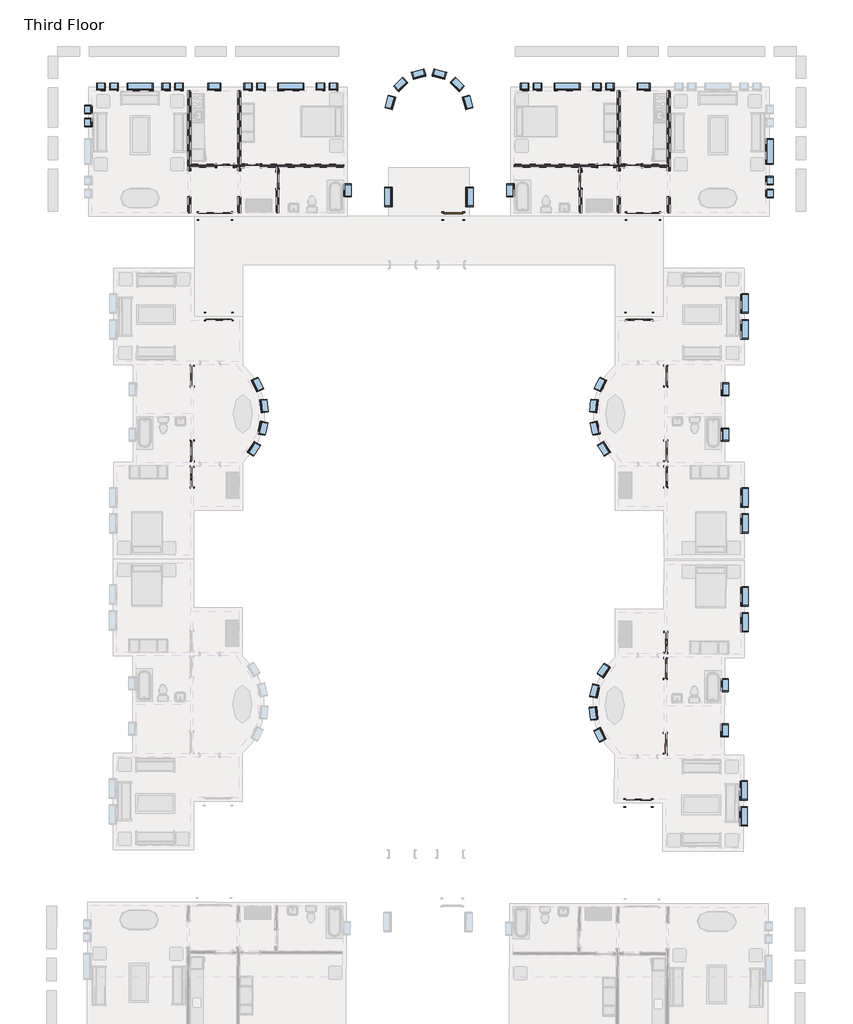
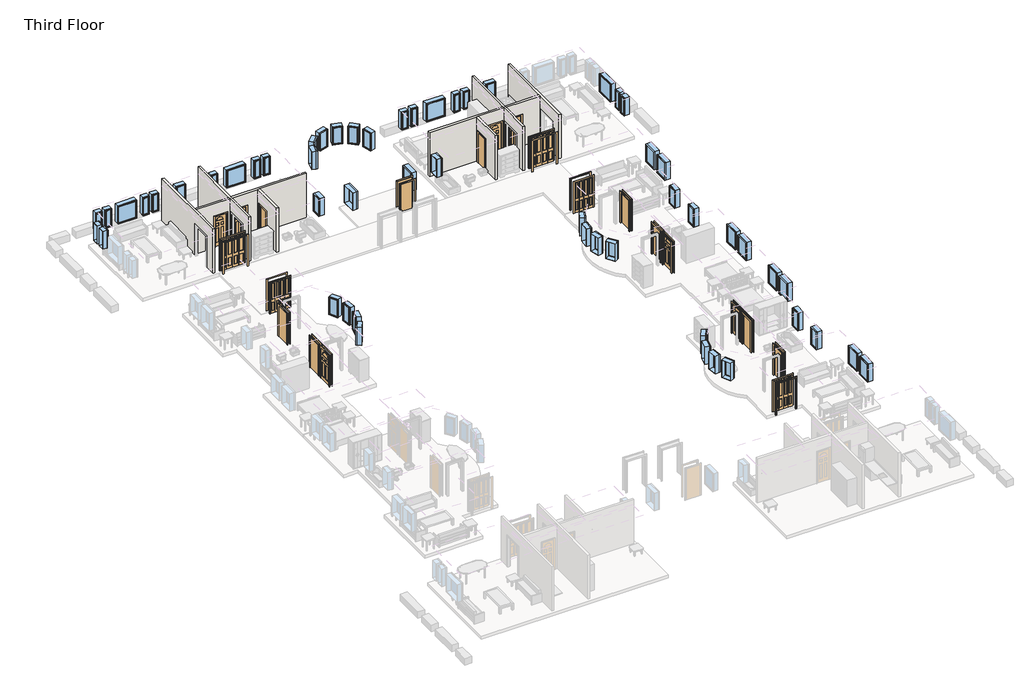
# One storey, part 2 of 5: 56 windows, 21 doors, 8 walls.
"""IFC4 building model written with IfcOpenShell, lengths in millimetres."""

from ifc_helpers import new_model, si_unit, frame, origin, place, context, project, spatial, polyline, outline, extrude, faceted_brep, transform, mapped, element, save
from components import m_bifold_4_panel_1220_x_2134mm_46e1cad3, m_bifold_4_panel_1220_x_2134mm_cde6dea2, m_bifold_4_panel_1525_x_2134mm_1ddae71f, m_bifold_4_panel_1525_x_2134mm_ac598c8b, m_single_decorative_2_0762_x_2134mm_0d0af7cb, m_single_decorative_2_0762_x_2134mm_2fe67c8e, m_single_decorative_2_0915_x_2134mm_cc9a65e4, m_single_decorative_2_0915_x_2134mm_0b11df3f, m_single_flush_0762_x_2134mm_0d89e411, m_single_flush_0762_x_2134mm_a28375c7, m_single_flush_0915_x_2134mm_1eac8bb1, m_single_flush_0915_x_2134mm_ab9b6334, m_single_flush_0915_x_2134mm_08e0827a, m_fixed_0406_x_1220mm_57fee329, m_fixed_0406_x_1220mm_85c28f40, m_fixed_0610_x_1220mm_2c28ef1d, m_fixed_0610_x_1220mm_1ea27827, m_fixed_0915_x_1220mm_bde29121, m_fixed_0915_x_1220mm_2a2509e7, m_fixed_1220_x_1220mm_e08ff7af, m_fixed_1220_x_1220mm_8f5f8ad3

model = new_model("IFC4")

# Units and contexts
model_context = context("Model", 3, world=origin())
ifc_project = project(units=[si_unit("LENGTHUNIT", "METRE", prefix="MILLI")], contexts=[model_context])

# Site, building, storey
site = spatial("IfcSite", under=ifc_project)
building = spatial("IfcBuilding", under=site)
storey = spatial("IfcBuildingStorey", under=building, Name="Third Floor", Elevation=6096.0)

# Doors
placement = place(None, origin())
m_bifold_4_panel_1220_x_2134mm_shape = m_bifold_4_panel_1220_x_2134mm_46e1cad3(model_context)
element("IfcDoor", 1, ObjectType="M_Bifold-4 Panel : 1220 x 2134mm", at=placement, inside=storey, context=model_context, shape_type="MappedRepresentation", body=[
    mapped(m_bifold_4_panel_1220_x_2134mm_shape, transform((-28863.3459343, -8240.6820888, 6096.0), x_axis=(-0.9999989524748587, 0.0014474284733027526, 0.0), y_axis=(-0.0014474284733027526, -0.9999989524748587, 0.0), z_axis=(0.0, 0.0, 1.0))),
])
element("IfcDoor", 2, ObjectType="M_Bifold-4 Panel : 1220 x 2134mm", at=placement, inside=storey, context=model_context, shape_type="MappedRepresentation", body=[
    mapped(m_bifold_4_panel_1220_x_2134mm_shape, transform((-9084.0085376, -31158.0124606, 6096.0), x_axis=(0.9999905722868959, -0.0043422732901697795, 0.0), y_axis=(0.0043422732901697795, 0.9999905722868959, 0.0), z_axis=(0.0, 0.0, 1.0))),
])
m_bifold_4_panel_1220_x_2134mm_2_shape = m_bifold_4_panel_1220_x_2134mm_cde6dea2(model_context)
element("IfcDoor", 3, ObjectType="M_Bifold-4 Panel : 1220 x 2134mm", at=placement, inside=storey, context=model_context, shape_type="MappedRepresentation", body=[
    mapped(m_bifold_4_panel_1220_x_2134mm_2_shape, transform((-9050.8373063, -8240.6820888, 6096.0), x_axis=(0.9999989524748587, 0.0014474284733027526, 0.0), y_axis=(-0.0014474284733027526, 0.9999989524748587, 0.0), z_axis=(0.0, 0.0, 1.0))),
])
m_bifold_4_panel_1525_x_2134mm_shape = m_bifold_4_panel_1525_x_2134mm_1ddae71f(model_context)
element("IfcDoor", 4, ObjectType="M_Bifold-4 Panel : 1525 x 2134mm", at=placement, inside=storey, context=model_context, shape_type="MappedRepresentation", body=[
    mapped(m_bifold_4_panel_1525_x_2134mm_shape, transform((-8876.0916203, -3514.8811614, 6096.0), x_axis=(1.0, 0.0, 0.0), y_axis=(0.0, 1.0, 0.0), z_axis=(0.0, 0.0, 1.0))),
])
m_bifold_4_panel_1525_x_2134mm_2_shape = m_bifold_4_panel_1525_x_2134mm_ac598c8b(model_context)
element("IfcDoor", 5, ObjectType="M_Bifold-4 Panel : 1525 x 2134mm", at=placement, inside=storey, context=model_context, shape_type="MappedRepresentation", body=[
    mapped(m_bifold_4_panel_1525_x_2134mm_2_shape, transform((-29038.0916203, -3514.8811614, 6096.0), x_axis=(-1.0, 0.0, 0.0), y_axis=(0.0, -1.0, 0.0), z_axis=(0.0, 0.0, 1.0))),
])
m_single_decorative_2_0762_x_2134mm_shape = m_single_decorative_2_0762_x_2134mm_0d0af7cb(model_context)
element("IfcDoor", 6, ObjectType="M_Single-Decorative 2 : 0762 x 2134mm", at=placement, inside=storey, context=model_context, shape_type="MappedRepresentation", body=[
    mapped(m_single_decorative_2_0762_x_2134mm_shape, transform((-9342.3416203, -1138.1311614, 6096.0), x_axis=(-1.0, 0.0, 0.0), y_axis=(0.0, -1.0, 0.0), z_axis=(0.0, 0.0, 1.0))),
])
element("IfcDoor", 7, ObjectType="M_Single-Decorative 2 : 0762 x 2134mm", at=placement, inside=storey, context=model_context, shape_type="MappedRepresentation", body=[
    mapped(m_single_decorative_2_0762_x_2134mm_shape, transform((-27285.0916203, -1138.1311614, 6096.0), x_axis=(-1.0, 0.0, 0.0), y_axis=(0.0, -1.0, 0.0), z_axis=(0.0, 0.0, 1.0))),
])
m_single_decorative_2_0762_x_2134mm_2_shape = m_single_decorative_2_0762_x_2134mm_2fe67c8e(model_context)
element("IfcDoor", 8, ObjectType="M_Single-Decorative 2 : 0762 x 2134mm", at=placement, inside=storey, context=model_context, shape_type="MappedRepresentation", body=[
    mapped(m_single_decorative_2_0762_x_2134mm_2_shape, transform((-10629.0916203, -1138.1311614, 6096.0), x_axis=(1.0, 0.0, 0.0), y_axis=(0.0, 1.0, 0.0), z_axis=(0.0, 0.0, 1.0))),
])
element("IfcDoor", 9, ObjectType="M_Single-Decorative 2 : 0762 x 2134mm", at=placement, inside=storey, context=model_context, shape_type="MappedRepresentation", body=[
    mapped(m_single_decorative_2_0762_x_2134mm_2_shape, transform((-28571.8416203, -1138.1311614, 6096.0), x_axis=(1.0, 0.0, 0.0), y_axis=(0.0, 1.0, 0.0), z_axis=(0.0, 0.0, 1.0))),
])
m_single_decorative_2_0915_x_2134mm_shape = m_single_decorative_2_0915_x_2134mm_cc9a65e4(model_context)
element("IfcDoor", 10, ObjectType="M_Single-Decorative 2 : 0915 x 2134mm", at=placement, inside=storey, context=model_context, shape_type="MappedRepresentation", body=[
    mapped(m_single_decorative_2_0915_x_2134mm_shape, transform((-30117.2933431, -15803.1250115, 6096.0), x_axis=(0.0014474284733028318, 0.9999989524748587, 0.0), y_axis=(-0.9999989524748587, 0.0014474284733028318, 0.0), z_axis=(0.0, 0.0, 1.0))),
])
element("IfcDoor", 11, ObjectType="M_Single-Decorative 2 : 0915 x 2134mm", at=placement, inside=storey, context=model_context, shape_type="MappedRepresentation", body=[
    mapped(m_single_decorative_2_0915_x_2134mm_shape, transform((-7808.1742155, -23599.2312198, 6096.0), x_axis=(-0.004342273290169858, -0.9999905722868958, 0.0), y_axis=(0.9999905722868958, -0.004342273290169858, 0.0), z_axis=(0.0, 0.0, 1.0))),
])
m_single_decorative_2_0915_x_2134mm_2_shape = m_single_decorative_2_0915_x_2134mm_0b11df3f(model_context)
element("IfcDoor", 12, ObjectType="M_Single-Decorative 2 : 0915 x 2134mm", at=placement, inside=storey, context=model_context, shape_type="MappedRepresentation", body=[
    mapped(m_single_decorative_2_0915_x_2134mm_2_shape, transform((-7796.8898976, -15803.1250115, 6096.0), x_axis=(-0.0014474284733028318, 0.9999989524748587, 0.0), y_axis=(-0.9999989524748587, -0.0014474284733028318, 0.0), z_axis=(0.0, 0.0, 1.0))),
])
m_single_flush_0762_x_2134mm_shape = m_single_flush_0762_x_2134mm_0d89e411(model_context)
element("IfcDoor", 13, ObjectType="M_Single-Flush : 0762 x 2134mm", at=placement, inside=storey, context=model_context, shape_type="MappedRepresentation", body=[
    mapped(m_single_flush_0762_x_2134mm_shape, transform((-11819.5916203, -1815.8811614, 6096.0), x_axis=(0.0, 1.0, 0.0), y_axis=(-1.0, 0.0, 0.0), z_axis=(0.0, 0.0, 1.0))),
])
m_single_flush_0762_x_2134mm_2_shape = m_single_flush_0762_x_2134mm_a28375c7(model_context)
element("IfcDoor", 14, ObjectType="M_Single-Flush : 0762 x 2134mm", at=placement, inside=storey, context=model_context, shape_type="MappedRepresentation", body=[
    mapped(m_single_flush_0762_x_2134mm_2_shape, transform((-26094.5916203, -1815.8811614, 6096.0), x_axis=(0.0, 1.0, 0.0), y_axis=(-1.0, 0.0, 0.0), z_axis=(0.0, 0.0, 1.0))),
])
m_single_flush_0915_x_2134mm_shape = m_single_flush_0915_x_2134mm_1eac8bb1(model_context)
element("IfcDoor", 15, ObjectType="M_Single-Flush : 0915 x 2134mm", at=placement, inside=storey, context=model_context, shape_type="MappedRepresentation", body=[
    mapped(m_single_flush_0915_x_2134mm_shape, transform((-17814.0916203, -3514.8811614, 6096.0), x_axis=(1.0, 0.0, 0.0), y_axis=(0.0, 1.0, 0.0), z_axis=(0.0, 0.0, 1.0))),
])
m_single_flush_0915_x_2134mm_2_shape = m_single_flush_0915_x_2134mm_ab9b6334(model_context)
element("IfcDoor", 16, ObjectType="M_Single-Flush : 0915 x 2134mm", at=placement, inside=storey, context=model_context, shape_type="MappedRepresentation", body=[
    mapped(m_single_flush_0915_x_2134mm_2_shape, transform((-7803.7915984, -11034.8800064, 6096.0), x_axis=(-0.0014474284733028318, 0.9999989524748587, 0.0), y_axis=(-0.9999989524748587, -0.0014474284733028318, 0.0), z_axis=(0.0, 0.0, 1.0))),
])
element("IfcDoor", 17, ObjectType="M_Single-Flush : 0915 x 2134mm", at=placement, inside=storey, context=model_context, shape_type="MappedRepresentation", body=[
    mapped(m_single_flush_0915_x_2134mm_2_shape, transform((-30115.5274803, -14583.1262895, 6096.0), x_axis=(-0.0014474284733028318, -0.9999989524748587, 0.0), y_axis=(0.9999989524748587, -0.0014474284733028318, 0.0), z_axis=(0.0, 0.0, 1.0))),
])
element("IfcDoor", 18, ObjectType="M_Single-Flush : 0915 x 2134mm", at=placement, inside=storey, context=model_context, shape_type="MappedRepresentation", body=[
    mapped(m_single_flush_0915_x_2134mm_2_shape, transform((-7813.4717889, -24819.219718, 6096.0), x_axis=(0.004342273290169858, 0.9999905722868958, 0.0), y_axis=(-0.9999905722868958, 0.004342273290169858, 0.0), z_axis=(0.0, 0.0, 1.0))),
])
m_single_flush_0915_x_2134mm_3_shape = m_single_flush_0915_x_2134mm_08e0827a(model_context)
element("IfcDoor", 19, ObjectType="M_Single-Flush : 0915 x 2134mm", at=placement, inside=storey, context=model_context, shape_type="MappedRepresentation", body=[
    mapped(m_single_flush_0915_x_2134mm_3_shape, transform((-7798.6557603, -14583.1262895, 6096.0), x_axis=(0.0014474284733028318, -0.9999989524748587, 0.0), y_axis=(0.9999989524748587, 0.0014474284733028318, 0.0), z_axis=(0.0, 0.0, 1.0))),
])
element("IfcDoor", 20, ObjectType="M_Single-Flush : 0915 x 2134mm", at=placement, inside=storey, context=model_context, shape_type="MappedRepresentation", body=[
    mapped(m_single_flush_0915_x_2134mm_3_shape, transform((-30110.3916422, -11034.8800064, 6096.0), x_axis=(0.0014474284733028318, 0.9999989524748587, 0.0), y_axis=(-0.9999989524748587, 0.0014474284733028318, 0.0), z_axis=(0.0, 0.0, 1.0))),
])
element("IfcDoor", 21, ObjectType="M_Single-Flush : 0915 x 2134mm", at=placement, inside=storey, context=model_context, shape_type="MappedRepresentation", body=[
    mapped(m_single_flush_0915_x_2134mm_3_shape, transform((-7828.8792601, -28367.4362661, 6096.0), x_axis=(-0.004342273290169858, -0.9999905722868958, 0.0), y_axis=(0.9999905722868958, -0.004342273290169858, 0.0), z_axis=(0.0, 0.0, 1.0))),
])

# Walls
element("IfcWall", 22, ObjectType="Interior - 135mm Partition (2-hr)", at=placement, inside=storey, context=model_context, shape_type="Brep", body=[
    faceted_brep([(-7733.0916203, 2406.1188386, 6096.0), (-7733.0916203, -1070.3811614, 6096.0), (-7733.0916203, -1205.8811614, 6096.0), (-7733.0916203, -1380.8811614, 6096.0), (-7733.0916203, -1380.8811614, 8230.0), (-7733.0916203, -2600.8811614, 8230.0), (-7733.0916203, -2600.8811614, 6096.0), (-7733.0916203, -3339.8811614, 6096.0), (-7733.0916203, -3339.8811614, 9144.0), (-7733.0916203, -1205.8811614, 9144.0), (-7733.0916203, -1070.3811614, 9144.0), (-7733.0916203, 2406.1188386, 9144.0), (-7597.5916203, -1380.8811614, 8230.0), (-7597.5916203, -1380.8811614, 6096.0), (-7597.5916203, 2406.1188386, 6096.0), (-7597.5916203, 2406.1188386, 9144.0), (-7597.5916203, -3339.8811614, 9144.0), (-7597.5916203, -3339.8811614, 6096.0), (-7597.5916203, -2600.8811614, 6096.0), (-7597.5916203, -2600.8811614, 8230.0)], [[[0, 1, 2, 3, 4, 5, 6, 7, 8, 9, 10, 11]], [[12, 13, 14, 15, 16, 17, 18, 19]], [[18, 17, 7, 6]], [[14, 13, 3, 2, 1, 0]], [[11, 10, 9, 8, 16, 15]], [[6, 5, 19, 18]], [[4, 3, 13, 12]], [[5, 4, 12, 19]], [[8, 7, 17, 16]], [[0, 11, 15, 14]]]),
])
element("IfcWall", 23, ObjectType="Interior - 135mm Partition (2-hr)", at=placement, inside=storey, context=model_context, shape_type="Brep", body=[
    faceted_brep([(-10086.8416203, -2600.8811614, 8230.0), (-10086.8416203, -2600.8811614, 6096.0), (-10086.8416203, -3339.8811614, 6096.0), (-10086.8416203, -3339.8811614, 9144.0), (-10086.8416203, -1205.8811614, 9144.0), (-10086.8416203, -1070.3811614, 9144.0), (-10086.8416203, 2406.1188386, 9144.0), (-10086.8416203, 2406.1188386, 6096.0), (-10086.8416203, -1070.3811614, 6096.0), (-10086.8416203, -1205.8811614, 6096.0), (-10086.8416203, -1380.8811614, 6096.0), (-10086.8416203, -1380.8811614, 8230.0), (-9951.3416203, -3339.8811614, 6096.0), (-9951.3416203, -2600.8811614, 6096.0), (-9951.3416203, -2600.8811614, 8230.0), (-9951.3416203, -1380.8811614, 8230.0), (-9951.3416203, -1380.8811614, 6096.0), (-9951.3416203, -1205.8811614, 6096.0), (-9951.3416203, -1070.3811614, 6096.0), (-9951.3416203, 2406.1188386, 6096.0), (-9951.3416203, 2406.1188386, 9144.0), (-9951.3416203, -1070.3811614, 9144.0), (-9951.3416203, -1205.8811614, 9144.0), (-9951.3416203, -3339.8811614, 9144.0)], [[[0, 1, 2, 3, 4, 5, 6, 7, 8, 9, 10, 11]], [[12, 13, 14, 15, 16, 17, 18, 19, 20, 21, 22, 23]], [[2, 1, 13, 12]], [[10, 9, 8, 7, 19, 18, 17, 16]], [[6, 5, 4, 3, 23, 22, 21, 20]], [[16, 15, 11, 10]], [[14, 13, 1, 0]], [[15, 14, 0, 11]], [[3, 2, 12, 23]], [[7, 6, 20, 19]]]),
])
element("IfcWall", 24, ObjectType="Interior - 135mm Partition (2-hr)", at=placement, inside=storey, context=model_context, shape_type="Brep", body=[
    faceted_brep([(-9723.3416203, -1205.8811614, 6096.0), (-9723.3416203, -1205.8811614, 8230.0), (-8961.3416203, -1205.8811614, 8230.0), (-8961.3416203, -1205.8811614, 6096.0), (-7733.0916203, -1205.8811614, 6096.0), (-7733.0916203, -1205.8811614, 9144.0), (-9951.3416203, -1205.8811614, 9144.0), (-9951.3416203, -1205.8811614, 6096.0), (-9723.3416203, -1070.3811614, 8230.0), (-9723.3416203, -1070.3811614, 6096.0), (-9951.3416203, -1070.3811614, 6096.0), (-9951.3416203, -1070.3811614, 9144.0), (-7733.0916203, -1070.3811614, 9144.0), (-7733.0916203, -1070.3811614, 6096.0), (-8961.3416203, -1070.3811614, 6096.0), (-8961.3416203, -1070.3811614, 8230.0)], [[[0, 1, 2, 3, 4, 5, 6, 7]], [[8, 9, 10, 11, 12, 13, 14, 15]], [[9, 0, 7, 10]], [[3, 14, 13, 4]], [[5, 12, 11, 6]], [[1, 0, 9, 8]], [[2, 1, 8, 15]], [[3, 2, 15, 14]], [[5, 4, 13, 12]], [[7, 6, 11, 10]]]),
    faceted_brep([(-10248.0916203, -1205.8811614, 8230.0), (-10248.0916203, -1205.8811614, 6096.0), (-10086.8416203, -1205.8811614, 6096.0), (-10086.8416203, -1205.8811614, 9144.0), (-11751.8416203, -1205.8811614, 9144.0), (-11887.3416203, -1205.8811614, 9144.0), (-14935.3416203, -1205.8811614, 9144.0), (-14935.3416203, -1205.8811614, 6096.0), (-11887.3416203, -1205.8811614, 6096.0), (-11751.8416203, -1205.8811614, 6096.0), (-11010.0916203, -1205.8811614, 6096.0), (-11010.0916203, -1205.8811614, 8230.0), (-10248.0916203, -1070.3811614, 6096.0), (-10248.0916203, -1070.3811614, 8230.0), (-11010.0916203, -1070.3811614, 8230.0), (-11010.0916203, -1070.3811614, 6096.0), (-14935.3416203, -1070.3811614, 6096.0), (-14935.3416203, -1070.3811614, 9144.0), (-10086.8416203, -1070.3811614, 9144.0), (-10086.8416203, -1070.3811614, 6096.0)], [[[0, 1, 2, 3, 4, 5, 6, 7, 8, 9, 10, 11]], [[12, 13, 14, 15, 16, 17, 18, 19]], [[1, 12, 19, 2]], [[15, 10, 9, 8, 7, 16]], [[17, 6, 5, 4, 3, 18]], [[13, 12, 1, 0]], [[14, 13, 0, 11]], [[15, 14, 11, 10]], [[7, 6, 17, 16]], [[3, 2, 19, 18]]]),
])
element("IfcWall", 25, ObjectType="Interior - 135mm Partition (2-hr)", at=placement, inside=storey, context=model_context, shape_type="SweptSolid", body=[
    extrude(outline(polyline([(-1205.8811614, 6096.0), (-1434.8811614, 6096.0), (-1434.8811614, 8230.0), (-2196.8811614, 8230.0), (-2196.8811614, 6096.0), (-3339.8811614, 6096.0), (-3339.8811614, 9144.0), (-1205.8811614, 9144.0), (-1205.8811614, 6096.0)])), frame((-11887.3416203, 0.0, 0.0), z_axis=(1.0, 0.0, 0.0), x_axis=(0.0, 1.0, 0.0)), (0.0, 0.0, 1.0), 135.5),
])
element("IfcWall", 26, ObjectType="Interior - 135mm Partition (2-hr)", at=placement, inside=storey, context=model_context, shape_type="Brep", body=[
    faceted_brep([(-30316.5916203, 2406.1188386, 6096.0), (-30316.5916203, -1380.8811614, 6096.0), (-30316.5916203, -1380.8811614, 8230.0), (-30316.5916203, -2600.8811614, 8230.0), (-30316.5916203, -2600.8811614, 6096.0), (-30316.5916203, -3339.8811614, 6096.0), (-30316.5916203, -3339.8811614, 9144.0), (-30316.5916203, 2406.1188386, 9144.0), (-30181.0916203, -1380.8811614, 8230.0), (-30181.0916203, -1380.8811614, 6096.0), (-30181.0916203, -1205.8811614, 6096.0), (-30181.0916203, -1070.3811614, 6096.0), (-30181.0916203, 2406.1188386, 6096.0), (-30181.0916203, 2406.1188386, 9144.0), (-30181.0916203, -1070.3811614, 9144.0), (-30181.0916203, -1205.8811614, 9144.0), (-30181.0916203, -3339.8811614, 9144.0), (-30181.0916203, -3339.8811614, 6096.0), (-30181.0916203, -2600.8811614, 6096.0), (-30181.0916203, -2600.8811614, 8230.0)], [[[0, 1, 2, 3, 4, 5, 6, 7]], [[8, 9, 10, 11, 12, 13, 14, 15, 16, 17, 18, 19]], [[18, 17, 5, 4]], [[12, 11, 10, 9, 1, 0]], [[7, 6, 16, 15, 14, 13]], [[4, 3, 19, 18]], [[2, 1, 9, 8]], [[3, 2, 8, 19]], [[0, 7, 13, 12]], [[6, 5, 17, 16]]]),
])
element("IfcWall", 27, ObjectType="Interior - 135mm Partition (2-hr)", at=placement, inside=storey, context=model_context, shape_type="Brep", body=[
    faceted_brep([(-27962.8416203, -2600.8811614, 8230.0), (-27962.8416203, -2600.8811614, 6096.0), (-27962.8416203, -3339.8811614, 6096.0), (-27962.8416203, -3339.8811614, 9144.0), (-27962.8416203, -1205.8811614, 9144.0), (-27962.8416203, -1070.3811614, 9144.0), (-27962.8416203, 2406.1188386, 9144.0), (-27962.8416203, 2406.1188386, 6096.0), (-27962.8416203, -1070.3811614, 6096.0), (-27962.8416203, -1205.8811614, 6096.0), (-27962.8416203, -1380.8811614, 6096.0), (-27962.8416203, -1380.8811614, 8230.0), (-27827.3416203, -3339.8811614, 6096.0), (-27827.3416203, -2600.8811614, 6096.0), (-27827.3416203, -2600.8811614, 8230.0), (-27827.3416203, -1380.8811614, 8230.0), (-27827.3416203, -1380.8811614, 6096.0), (-27827.3416203, -1205.8811614, 6096.0), (-27827.3416203, -1070.3811614, 6096.0), (-27827.3416203, 2406.1188386, 6096.0), (-27827.3416203, 2406.1188386, 9144.0), (-27827.3416203, -1070.3811614, 9144.0), (-27827.3416203, -1205.8811614, 9144.0), (-27827.3416203, -3339.8811614, 9144.0)], [[[0, 1, 2, 3, 4, 5, 6, 7, 8, 9, 10, 11]], [[12, 13, 14, 15, 16, 17, 18, 19, 20, 21, 22, 23]], [[2, 1, 13, 12]], [[10, 9, 8, 7, 19, 18, 17, 16]], [[6, 5, 4, 3, 23, 22, 21, 20]], [[16, 15, 11, 10]], [[14, 13, 1, 0]], [[15, 14, 0, 11]], [[7, 6, 20, 19]], [[3, 2, 12, 23]]]),
])
element("IfcWall", 28, ObjectType="Interior - 135mm Partition (2-hr)", at=placement, inside=storey, context=model_context, shape_type="Brep", body=[
    faceted_brep([(-30181.0916203, -1070.3811614, 6096.0), (-30181.0916203, -1070.3811614, 9144.0), (-27962.8416203, -1070.3811614, 9144.0), (-27962.8416203, -1070.3811614, 6096.0), (-28190.8416203, -1070.3811614, 6096.0), (-28190.8416203, -1070.3811614, 8230.0), (-28952.8416203, -1070.3811614, 8230.0), (-28952.8416203, -1070.3811614, 6096.0), (-30181.0916203, -1205.8811614, 9144.0), (-30181.0916203, -1205.8811614, 6096.0), (-28952.8416203, -1205.8811614, 6096.0), (-28952.8416203, -1205.8811614, 8230.0), (-28190.8416203, -1205.8811614, 8230.0), (-28190.8416203, -1205.8811614, 6096.0), (-27962.8416203, -1205.8811614, 6096.0), (-27962.8416203, -1205.8811614, 9144.0)], [[[0, 1, 2, 3, 4, 5, 6, 7]], [[8, 9, 10, 11, 12, 13, 14, 15]], [[9, 0, 7, 10]], [[13, 4, 3, 14]], [[1, 8, 15, 2]], [[1, 0, 9, 8]], [[3, 2, 15, 14]], [[5, 4, 13, 12]], [[6, 5, 12, 11]], [[7, 6, 11, 10]]]),
    faceted_brep([(-27666.0916203, -1070.3811614, 8230.0), (-27666.0916203, -1070.3811614, 6096.0), (-27827.3416203, -1070.3811614, 6096.0), (-27827.3416203, -1070.3811614, 9144.0), (-22978.8416203, -1070.3811614, 9144.0), (-22978.8416203, -1070.3811614, 6096.0), (-26904.0916203, -1070.3811614, 6096.0), (-26904.0916203, -1070.3811614, 8230.0), (-27666.0916203, -1205.8811614, 6096.0), (-27666.0916203, -1205.8811614, 8230.0), (-26904.0916203, -1205.8811614, 8230.0), (-26904.0916203, -1205.8811614, 6096.0), (-26162.3416203, -1205.8811614, 6096.0), (-26026.8416203, -1205.8811614, 6096.0), (-22978.8416203, -1205.8811614, 6096.0), (-22978.8416203, -1205.8811614, 9144.0), (-26026.8416203, -1205.8811614, 9144.0), (-26162.3416203, -1205.8811614, 9144.0), (-27827.3416203, -1205.8811614, 9144.0), (-27827.3416203, -1205.8811614, 6096.0)], [[[0, 1, 2, 3, 4, 5, 6, 7]], [[8, 9, 10, 11, 12, 13, 14, 15, 16, 17, 18, 19]], [[1, 8, 19, 2]], [[11, 6, 5, 14, 13, 12]], [[15, 4, 3, 18, 17, 16]], [[3, 2, 19, 18]], [[9, 8, 1, 0]], [[10, 9, 0, 7]], [[11, 10, 7, 6]], [[5, 4, 15, 14]]]),
])
element("IfcWall", 29, ObjectType="Interior - 135mm Partition (2-hr)", at=placement, inside=storey, context=model_context, shape_type="SweptSolid", body=[
    extrude(outline(polyline([(-1205.8811614, 6096.0), (-1434.8811614, 6096.0), (-1434.8811614, 8230.0), (-2196.8811614, 8230.0), (-2196.8811614, 6096.0), (-3339.8811614, 6096.0), (-3339.8811614, 9144.0), (-1205.8811614, 9144.0), (-1205.8811614, 6096.0)])), frame((-26162.3416203, 0.0, 0.0), z_axis=(1.0, 0.0, 0.0), x_axis=(0.0, 1.0, 0.0)), (0.0, 0.0, 1.0), 135.5),
])

# Windows
m_fixed_0406_x_1220mm_shape = m_fixed_0406_x_1220mm_57fee329(model_context)
element("IfcWindow", 30, ObjectType="M_Fixed : 0406 x 1220mm", at=placement, inside=storey, context=model_context, shape_type="MappedRepresentation", body=[
    mapped(m_fixed_0406_x_1220mm_shape, transform((-14450.3416203, 2594.1188386, 6096.0), x_axis=(-1.0, 0.0, 0.0), y_axis=(0.0, -1.0, 0.0), z_axis=(0.0, 0.0, 1.0))),
])
element("IfcWindow", 31, ObjectType="M_Fixed : 0406 x 1220mm", at=placement, inside=storey, context=model_context, shape_type="MappedRepresentation", body=[
    mapped(m_fixed_0406_x_1220mm_shape, transform((-13840.3416203, 2594.1188386, 6096.0), x_axis=(-1.0, 0.0, 0.0), y_axis=(0.0, -1.0, 0.0), z_axis=(0.0, 0.0, 1.0))),
])
element("IfcWindow", 32, ObjectType="M_Fixed : 0406 x 1220mm", at=placement, inside=storey, context=model_context, shape_type="MappedRepresentation", body=[
    mapped(m_fixed_0406_x_1220mm_shape, transform((-27477.8416203, 2594.1188386, 6096.0), x_axis=(-1.0, 0.0, 0.0), y_axis=(0.0, -1.0, 0.0), z_axis=(0.0, 0.0, 1.0))),
])
element("IfcWindow", 33, ObjectType="M_Fixed : 0406 x 1220mm", at=placement, inside=storey, context=model_context, shape_type="MappedRepresentation", body=[
    mapped(m_fixed_0406_x_1220mm_shape, transform((-26867.8416203, 2594.1188386, 6096.0), x_axis=(-1.0, 0.0, 0.0), y_axis=(0.0, -1.0, 0.0), z_axis=(0.0, 0.0, 1.0))),
])
element("IfcWindow", 34, ObjectType="M_Fixed : 0406 x 1220mm", at=placement, inside=storey, context=model_context, shape_type="MappedRepresentation", body=[
    mapped(m_fixed_0406_x_1220mm_shape, transform((-34406.5916203, 2594.1188386, 6096.0), x_axis=(-1.0, 0.0, 0.0), y_axis=(0.0, -1.0, 0.0), z_axis=(0.0, 0.0, 1.0))),
])
element("IfcWindow", 35, ObjectType="M_Fixed : 0406 x 1220mm", at=placement, inside=storey, context=model_context, shape_type="MappedRepresentation", body=[
    mapped(m_fixed_0406_x_1220mm_shape, transform((-33796.5916203, 2594.1188386, 6096.0), x_axis=(-1.0, 0.0, 0.0), y_axis=(0.0, -1.0, 0.0), z_axis=(0.0, 0.0, 1.0))),
])
m_fixed_0406_x_1220mm_2_shape = m_fixed_0406_x_1220mm_85c28f40(model_context)
element("IfcWindow", 36, ObjectType="M_Fixed : 0406 x 1220mm", at=placement, inside=storey, context=model_context, shape_type="MappedRepresentation", body=[
    mapped(m_fixed_0406_x_1220mm_2_shape, transform((-10436.3416203, 2594.1188386, 6096.0), x_axis=(1.0, 0.0, 0.0), y_axis=(0.0, 1.0, 0.0), z_axis=(0.0, 0.0, 1.0))),
])
element("IfcWindow", 37, ObjectType="M_Fixed : 0406 x 1220mm", at=placement, inside=storey, context=model_context, shape_type="MappedRepresentation", body=[
    mapped(m_fixed_0406_x_1220mm_2_shape, transform((-11046.3416203, 2594.1188386, 6096.0), x_axis=(1.0, 0.0, 0.0), y_axis=(0.0, 1.0, 0.0), z_axis=(0.0, 0.0, 1.0))),
])
element("IfcWindow", 38, ObjectType="M_Fixed : 0406 x 1220mm", at=placement, inside=storey, context=model_context, shape_type="MappedRepresentation", body=[
    mapped(m_fixed_0406_x_1220mm_2_shape, transform((-2905.3416203, -2447.8811614, 6096.0), x_axis=(0.0, -1.0, 0.0), y_axis=(1.0, 0.0, 0.0), z_axis=(0.0, 0.0, 1.0))),
])
element("IfcWindow", 39, ObjectType="M_Fixed : 0406 x 1220mm", at=placement, inside=storey, context=model_context, shape_type="MappedRepresentation", body=[
    mapped(m_fixed_0406_x_1220mm_2_shape, transform((-2905.3416203, -1837.8811614, 6096.0), x_axis=(0.0, -1.0, 0.0), y_axis=(1.0, 0.0, 0.0), z_axis=(0.0, 0.0, 1.0))),
])
element("IfcWindow", 40, ObjectType="M_Fixed : 0406 x 1220mm", at=placement, inside=storey, context=model_context, shape_type="MappedRepresentation", body=[
    mapped(m_fixed_0406_x_1220mm_2_shape, transform((-23463.8416203, 2594.1188386, 6096.0), x_axis=(1.0, 0.0, 0.0), y_axis=(0.0, 1.0, 0.0), z_axis=(0.0, 0.0, 1.0))),
])
element("IfcWindow", 41, ObjectType="M_Fixed : 0406 x 1220mm", at=placement, inside=storey, context=model_context, shape_type="MappedRepresentation", body=[
    mapped(m_fixed_0406_x_1220mm_2_shape, transform((-24073.8416203, 2594.1188386, 6096.0), x_axis=(1.0, 0.0, 0.0), y_axis=(0.0, 1.0, 0.0), z_axis=(0.0, 0.0, 1.0))),
])
element("IfcWindow", 42, ObjectType="M_Fixed : 0406 x 1220mm", at=placement, inside=storey, context=model_context, shape_type="MappedRepresentation", body=[
    mapped(m_fixed_0406_x_1220mm_2_shape, transform((-30730.8416203, 2594.1188386, 6096.0), x_axis=(1.0, 0.0, 0.0), y_axis=(0.0, 1.0, 0.0), z_axis=(0.0, 0.0, 1.0))),
])
element("IfcWindow", 43, ObjectType="M_Fixed : 0406 x 1220mm", at=placement, inside=storey, context=model_context, shape_type="MappedRepresentation", body=[
    mapped(m_fixed_0406_x_1220mm_2_shape, transform((-31340.8416203, 2594.1188386, 6096.0), x_axis=(1.0, 0.0, 0.0), y_axis=(0.0, 1.0, 0.0), z_axis=(0.0, 0.0, 1.0))),
])
element("IfcWindow", 44, ObjectType="M_Fixed : 0406 x 1220mm", at=placement, inside=storey, context=model_context, shape_type="MappedRepresentation", body=[
    mapped(m_fixed_0406_x_1220mm_2_shape, transform((-35008.8416203, 1514.1188386, 6096.0), x_axis=(0.0, 1.0, 0.0), y_axis=(-1.0, 0.0, 0.0), z_axis=(0.0, 0.0, 1.0))),
])
element("IfcWindow", 45, ObjectType="M_Fixed : 0406 x 1220mm", at=placement, inside=storey, context=model_context, shape_type="MappedRepresentation", body=[
    mapped(m_fixed_0406_x_1220mm_2_shape, transform((-35008.8416203, 904.1188386, 6096.0), x_axis=(0.0, 1.0, 0.0), y_axis=(-1.0, 0.0, 0.0), z_axis=(0.0, 0.0, 1.0))),
])
m_fixed_0610_x_1220mm_shape = m_fixed_0610_x_1220mm_2c28ef1d(model_context)
element("IfcWindow", 46, ObjectType="M_Fixed : 0610 x 1220mm", at=placement, inside=storey, context=model_context, shape_type="MappedRepresentation", body=[
    mapped(m_fixed_0610_x_1220mm_shape, transform((-8842.1916203, 2594.1188386, 6096.0), x_axis=(-1.0, 0.0, 0.0), y_axis=(0.0, -1.0, 0.0), z_axis=(0.0, 0.0, 1.0))),
])
element("IfcWindow", 47, ObjectType="M_Fixed : 0610 x 1220mm", at=placement, inside=storey, context=model_context, shape_type="MappedRepresentation", body=[
    mapped(m_fixed_0610_x_1220mm_shape, transform((-15123.3416203, -2294.8811614, 6096.0), x_axis=(0.0, -1.0, 0.0), y_axis=(1.0, 0.0, 0.0), z_axis=(0.0, 0.0, 1.0))),
])
element("IfcWindow", 48, ObjectType="M_Fixed : 0610 x 1220mm", at=placement, inside=storey, context=model_context, shape_type="MappedRepresentation", body=[
    mapped(m_fixed_0610_x_1220mm_shape, transform((-20788.0201619, 1852.7146627, 6096.0), x_axis=(-0.2588190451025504, -0.9659258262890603, 0.0), y_axis=(0.9659258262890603, -0.2588190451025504, 0.0), z_axis=(0.0, 0.0, 1.0))),
])
element("IfcWindow", 49, ObjectType="M_Fixed : 0610 x 1220mm", at=placement, inside=storey, context=model_context, shape_type="MappedRepresentation", body=[
    mapped(m_fixed_0610_x_1220mm_shape, transform((-19447.6874444, 3193.0473802, 6096.0), x_axis=(-0.9659258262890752, -0.2588190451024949, 0.0), y_axis=(0.2588190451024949, -0.9659258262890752, 0.0), z_axis=(0.0, 0.0, 1.0))),
])
element("IfcWindow", 50, ObjectType="M_Fixed : 0610 x 1220mm", at=placement, inside=storey, context=model_context, shape_type="MappedRepresentation", body=[
    mapped(m_fixed_0610_x_1220mm_shape, transform((-20297.4243378, 2702.4515561, 6096.0), x_axis=(-0.707106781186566, -0.7071067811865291, 0.0), y_axis=(0.7071067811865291, -0.707106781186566, 0.0), z_axis=(0.0, 0.0, 1.0))),
])
element("IfcWindow", 51, ObjectType="M_Fixed : 0610 x 1220mm", at=placement, inside=storey, context=model_context, shape_type="MappedRepresentation", body=[
    mapped(m_fixed_0610_x_1220mm_shape, transform((-10890.7718819, -11438.4303335, 6096.0), x_axis=(-0.4506702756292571, -0.8926904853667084, 0.0), y_axis=(0.8926904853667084, -0.4506702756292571, 0.0), z_axis=(0.0, 0.0, 1.0))),
])
element("IfcWindow", 52, ObjectType="M_Fixed : 0610 x 1220mm", at=placement, inside=storey, context=model_context, shape_type="MappedRepresentation", body=[
    mapped(m_fixed_0610_x_1220mm_shape, transform((-11196.3470359, -12451.3940589, 6096.0), x_axis=(-0.11817340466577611, -0.9929929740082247, 0.0), y_axis=(0.9929929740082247, -0.11817340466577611, 0.0), z_axis=(0.0, 0.0, 1.0))),
])
element("IfcWindow", 53, ObjectType="M_Fixed : 0610 x 1220mm", at=placement, inside=storey, context=model_context, shape_type="MappedRepresentation", body=[
    mapped(m_fixed_0610_x_1220mm_shape, transform((-27195.6619811, -14479.206252, 6096.0), x_axis=(0.5477575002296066, 0.8366371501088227, 0.0), y_axis=(-0.8366371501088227, 0.5477575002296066, 0.0), z_axis=(0.0, 0.0, 1.0))),
])
element("IfcWindow", 54, ObjectType="M_Fixed : 0610 x 1220mm", at=placement, inside=storey, context=model_context, shape_type="MappedRepresentation", body=[
    mapped(m_fixed_0610_x_1220mm_shape, transform((-26778.8680979, -13507.3765282, 6096.0), x_axis=(0.22857692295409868, 0.9735258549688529, 0.0), y_axis=(-0.9735258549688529, 0.22857692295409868, 0.0), z_axis=(0.0, 0.0, 1.0))),
])
element("IfcWindow", 55, ObjectType="M_Fixed : 0610 x 1220mm", at=placement, inside=storey, context=model_context, shape_type="MappedRepresentation", body=[
    mapped(m_fixed_0610_x_1220mm_shape, transform((-5008.2557133, -25604.6081373, 6096.0), x_axis=(0.004342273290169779, 0.9999905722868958, 0.0), y_axis=(-0.9999905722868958, 0.004342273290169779, 0.0), z_axis=(0.0, 0.0, 1.0))),
])
element("IfcWindow", 56, ObjectType="M_Fixed : 0610 x 1220mm", at=placement, inside=storey, context=model_context, shape_type="MappedRepresentation", body=[
    mapped(m_fixed_0610_x_1220mm_shape, transform((-5017.5203876, -27738.1880223, 6096.0), x_axis=(0.004342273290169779, 0.9999905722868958, 0.0), y_axis=(-0.9999905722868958, 0.004342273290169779, 0.0), z_axis=(0.0, 0.0, 1.0))),
])
element("IfcWindow", 57, ObjectType="M_Fixed : 0610 x 1220mm", at=placement, inside=storey, context=model_context, shape_type="MappedRepresentation", body=[
    mapped(m_fixed_0610_x_1220mm_shape, transform((-10733.6258869, -24914.686736, 6096.0), x_axis=(-0.5501771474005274, -0.835047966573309, 0.0), y_axis=(0.835047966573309, -0.5501771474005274, 0.0), z_axis=(0.0, 0.0, 1.0))),
])
element("IfcWindow", 58, ObjectType="M_Fixed : 0610 x 1220mm", at=placement, inside=storey, context=model_context, shape_type="MappedRepresentation", body=[
    mapped(m_fixed_0610_x_1220mm_shape, transform((-11153.2313288, -25885.3058303, 6096.0), x_axis=(-0.23139418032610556, -0.9728600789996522, 0.0), y_axis=(0.9728600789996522, -0.23139418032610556, 0.0), z_axis=(0.0, 0.0, 1.0))),
])
m_fixed_0610_x_1220mm_2_shape = m_fixed_0610_x_1220mm_1ea27827(model_context)
element("IfcWindow", 59, ObjectType="M_Fixed : 0610 x 1220mm", at=placement, inside=storey, context=model_context, shape_type="MappedRepresentation", body=[
    mapped(m_fixed_0610_x_1220mm_2_shape, transform((-17126.1630788, 1852.7146627, 6096.0), x_axis=(0.2588190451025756, -0.9659258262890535, 0.0), y_axis=(0.9659258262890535, 0.2588190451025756, 0.0), z_axis=(0.0, 0.0, 1.0))),
])
element("IfcWindow", 60, ObjectType="M_Fixed : 0610 x 1220mm", at=placement, inside=storey, context=model_context, shape_type="MappedRepresentation", body=[
    mapped(m_fixed_0610_x_1220mm_2_shape, transform((-18466.4957962, 3193.0473802, 6096.0), x_axis=(0.9659258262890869, -0.2588190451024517, 0.0), y_axis=(0.2588190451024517, 0.9659258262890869, 0.0), z_axis=(0.0, 0.0, 1.0))),
])
element("IfcWindow", 61, ObjectType="M_Fixed : 0610 x 1220mm", at=placement, inside=storey, context=model_context, shape_type="MappedRepresentation", body=[
    mapped(m_fixed_0610_x_1220mm_2_shape, transform((-17616.7589029, 2702.4515561, 6096.0), x_axis=(0.7071067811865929, -0.7071067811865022, 0.0), y_axis=(0.7071067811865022, 0.7071067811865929, 0.0), z_axis=(0.0, 0.0, 1.0))),
])
element("IfcWindow", 62, ObjectType="M_Fixed : 0610 x 1220mm", at=placement, inside=storey, context=model_context, shape_type="MappedRepresentation", body=[
    mapped(m_fixed_0610_x_1220mm_2_shape, transform((-4991.1778541, -13805.8618518, 6096.0), x_axis=(0.0014474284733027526, -0.9999989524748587, 0.0), y_axis=(0.9999989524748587, 0.0014474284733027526, 0.0), z_axis=(0.0, 0.0, 1.0))),
])
element("IfcWindow", 63, ObjectType="M_Fixed : 0610 x 1220mm", at=placement, inside=storey, context=model_context, shape_type="MappedRepresentation", body=[
    mapped(m_fixed_0610_x_1220mm_2_shape, transform((-4994.2660875, -11672.2640868, 6096.0), x_axis=(0.0014474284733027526, -0.9999989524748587, 0.0), y_axis=(0.9999989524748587, 0.0014474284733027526, 0.0), z_axis=(0.0, 0.0, 1.0))),
])
element("IfcWindow", 64, ObjectType="M_Fixed : 0610 x 1220mm", at=placement, inside=storey, context=model_context, shape_type="MappedRepresentation", body=[
    mapped(m_fixed_0610_x_1220mm_2_shape, transform((-10720.0033717, -14480.1766106, 6096.0), x_axis=(-0.5477575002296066, 0.8366371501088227, 0.0), y_axis=(-0.8366371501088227, -0.5477575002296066, 0.0), z_axis=(0.0, 0.0, 1.0))),
])
element("IfcWindow", 65, ObjectType="M_Fixed : 0610 x 1220mm", at=placement, inside=storey, context=model_context, shape_type="MappedRepresentation", body=[
    mapped(m_fixed_0610_x_1220mm_2_shape, transform((-11137.0397547, -13507.7814548, 6096.0), x_axis=(-0.22857692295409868, 0.9735258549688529, 0.0), y_axis=(-0.9735258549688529, -0.22857692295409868, 0.0), z_axis=(0.0, 0.0, 1.0))),
])
element("IfcWindow", 66, ObjectType="M_Fixed : 0610 x 1220mm", at=placement, inside=storey, context=model_context, shape_type="MappedRepresentation", body=[
    mapped(m_fixed_0610_x_1220mm_2_shape, transform((-29071.9916203, 2594.1188386, 6096.0), x_axis=(1.0, 0.0, 0.0), y_axis=(0.0, 1.0, 0.0), z_axis=(0.0, 0.0, 1.0))),
])
element("IfcWindow", 67, ObjectType="M_Fixed : 0610 x 1220mm", at=placement, inside=storey, context=model_context, shape_type="MappedRepresentation", body=[
    mapped(m_fixed_0610_x_1220mm_2_shape, transform((-22790.8416203, -2294.8811614, 6096.0), x_axis=(0.0, -1.0, 0.0), y_axis=(1.0, 0.0, 0.0), z_axis=(0.0, 0.0, 1.0))),
])
element("IfcWindow", 68, ObjectType="M_Fixed : 0610 x 1220mm", at=placement, inside=storey, context=model_context, shape_type="MappedRepresentation", body=[
    mapped(m_fixed_0610_x_1220mm_2_shape, transform((-27024.99277, -11439.2287009, 6096.0), x_axis=(0.4506702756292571, -0.8926904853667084, 0.0), y_axis=(0.8926904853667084, 0.4506702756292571, 0.0), z_axis=(0.0, 0.0, 1.0))),
])
element("IfcWindow", 69, ObjectType="M_Fixed : 0610 x 1220mm", at=placement, inside=storey, context=model_context, shape_type="MappedRepresentation", body=[
    mapped(m_fixed_0610_x_1220mm_2_shape, transform((-26719.595303, -12451.6034044, 6096.0), x_axis=(0.11817340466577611, -0.9929929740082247, 0.0), y_axis=(0.9929929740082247, 0.11817340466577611, 0.0), z_axis=(0.0, 0.0, 1.0))),
])
element("IfcWindow", 70, ObjectType="M_Fixed : 0610 x 1220mm", at=placement, inside=storey, context=model_context, shape_type="MappedRepresentation", body=[
    mapped(m_fixed_0610_x_1220mm_2_shape, transform((-10913.0946738, -27954.1574868, 6096.0), x_axis=(-0.448084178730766, 0.8939913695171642, 0.0), y_axis=(-0.8939913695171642, -0.448084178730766, 0.0), z_axis=(0.0, 0.0, 1.0))),
])
element("IfcWindow", 71, ObjectType="M_Fixed : 0610 x 1220mm", at=placement, inside=storey, context=model_context, shape_type="MappedRepresentation", body=[
    mapped(m_fixed_0610_x_1220mm_2_shape, transform((-11215.5601844, -26940.9029442, 6096.0), x_axis=(-0.11529833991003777, 0.9933309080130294, 0.0), y_axis=(-0.9933309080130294, -0.11529833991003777, 0.0), z_axis=(0.0, 0.0, 1.0))),
])
m_fixed_0915_x_1220mm_shape = m_fixed_0915_x_1220mm_bde29121(model_context)
element("IfcWindow", 72, ObjectType="M_Fixed : 0915 x 1220mm", at=placement, inside=storey, context=model_context, shape_type="MappedRepresentation", body=[
    mapped(m_fixed_0915_x_1220mm_shape, transform((-20875.0916203, -2599.8811614, 6096.0), x_axis=(0.0, -1.0, 0.0), y_axis=(1.0, 0.0, 0.0), z_axis=(0.0, 0.0, 1.0))),
])
element("IfcWindow", 73, ObjectType="M_Fixed : 0915 x 1220mm", at=placement, inside=storey, context=model_context, shape_type="MappedRepresentation", body=[
    mapped(m_fixed_0915_x_1220mm_shape, transform((-17039.0916203, -2599.8811614, 6096.0), x_axis=(0.0, 1.0, 0.0), y_axis=(-1.0, 0.0, 0.0), z_axis=(0.0, 0.0, 1.0))),
])
element("IfcWindow", 74, ObjectType="M_Fixed : 0915 x 1220mm", at=placement, inside=storey, context=model_context, shape_type="MappedRepresentation", body=[
    mapped(m_fixed_0915_x_1220mm_shape, transform((-4075.7025589, -21426.0681439, 6096.0), x_axis=(0.004342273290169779, 0.9999905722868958, 0.0), y_axis=(-0.9999905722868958, 0.004342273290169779, 0.0), z_axis=(0.0, 0.0, 1.0))),
])
element("IfcWindow", 75, ObjectType="M_Fixed : 0915 x 1220mm", at=placement, inside=storey, context=model_context, shape_type="MappedRepresentation", body=[
    mapped(m_fixed_0915_x_1220mm_shape, transform((-4080.9966585, -22645.2566496, 6096.0), x_axis=(0.004342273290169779, 0.9999905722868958, 0.0), y_axis=(-0.9999905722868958, 0.004342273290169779, 0.0), z_axis=(0.0, 0.0, 1.0))),
])
element("IfcWindow", 76, ObjectType="M_Fixed : 0915 x 1220mm", at=placement, inside=storey, context=model_context, shape_type="MappedRepresentation", body=[
    mapped(m_fixed_0915_x_1220mm_shape, transform((-4115.4083058, -30569.9819368, 6096.0), x_axis=(0.004342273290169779, 0.9999905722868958, 0.0), y_axis=(-0.9999905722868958, 0.004342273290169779, 0.0), z_axis=(0.0, 0.0, 1.0))),
])
element("IfcWindow", 77, ObjectType="M_Fixed : 0915 x 1220mm", at=placement, inside=storey, context=model_context, shape_type="MappedRepresentation", body=[
    mapped(m_fixed_0915_x_1220mm_shape, transform((-4120.7024054, -31789.1704426, 6096.0), x_axis=(0.004342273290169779, 0.9999905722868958, 0.0), y_axis=(-0.9999905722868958, 0.004342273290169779, 0.0), z_axis=(0.0, 0.0, 1.0))),
])
m_fixed_0915_x_1220mm_2_shape = m_fixed_0915_x_1220mm_2a2509e7(model_context)
element("IfcWindow", 78, ObjectType="M_Fixed : 0915 x 1220mm", at=placement, inside=storey, context=model_context, shape_type="MappedRepresentation", body=[
    mapped(m_fixed_0915_x_1220mm_2_shape, transform((-4070.72487, -17987.0839419, 6096.0), x_axis=(0.0014474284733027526, -0.9999989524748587, 0.0), y_axis=(0.9999989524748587, 0.0014474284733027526, 0.0), z_axis=(0.0, 0.0, 1.0))),
])
element("IfcWindow", 79, ObjectType="M_Fixed : 0915 x 1220mm", at=placement, inside=storey, context=model_context, shape_type="MappedRepresentation", body=[
    mapped(m_fixed_0915_x_1220mm_2_shape, transform((-4072.4895748, -16767.885219, 6096.0), x_axis=(0.0014474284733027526, -0.9999989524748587, 0.0), y_axis=(0.9999989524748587, 0.0014474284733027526, 0.0), z_axis=(0.0, 0.0, 1.0))),
])
element("IfcWindow", 80, ObjectType="M_Fixed : 0915 x 1220mm", at=placement, inside=storey, context=model_context, shape_type="MappedRepresentation", body=[
    mapped(m_fixed_0915_x_1220mm_2_shape, transform((-4083.960156, -8843.0935205, 6096.0), x_axis=(0.0014474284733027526, -0.9999989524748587, 0.0), y_axis=(0.9999989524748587, 0.0014474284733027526, 0.0), z_axis=(0.0, 0.0, 1.0))),
])
element("IfcWindow", 81, ObjectType="M_Fixed : 0915 x 1220mm", at=placement, inside=storey, context=model_context, shape_type="MappedRepresentation", body=[
    mapped(m_fixed_0915_x_1220mm_2_shape, transform((-4085.7248607, -7623.8947976, 6096.0), x_axis=(0.0014474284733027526, -0.9999989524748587, 0.0), y_axis=(0.9999989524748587, 0.0014474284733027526, 0.0), z_axis=(0.0, 0.0, 1.0))),
])
m_fixed_1220_x_1220mm_shape = m_fixed_1220_x_1220mm_e08ff7af(model_context)
element("IfcWindow", 82, ObjectType="M_Fixed : 1220 x 1220mm", at=placement, inside=storey, context=model_context, shape_type="MappedRepresentation", body=[
    mapped(m_fixed_1220_x_1220mm_shape, transform((-12443.3416203, 2594.1188386, 6096.0), x_axis=(-1.0, 0.0, 0.0), y_axis=(0.0, -1.0, 0.0), z_axis=(0.0, 0.0, 1.0))),
])
element("IfcWindow", 83, ObjectType="M_Fixed : 1220 x 1220mm", at=placement, inside=storey, context=model_context, shape_type="MappedRepresentation", body=[
    mapped(m_fixed_1220_x_1220mm_shape, transform((-2905.3416203, -466.8811614, 6096.0), x_axis=(0.0, 1.0, 0.0), y_axis=(-1.0, 0.0, 0.0), z_axis=(0.0, 0.0, 1.0))),
])
m_fixed_1220_x_1220mm_2_shape = m_fixed_1220_x_1220mm_8f5f8ad3(model_context)
element("IfcWindow", 84, ObjectType="M_Fixed : 1220 x 1220mm", at=placement, inside=storey, context=model_context, shape_type="MappedRepresentation", body=[
    mapped(m_fixed_1220_x_1220mm_2_shape, transform((-25470.8416203, 2594.1188386, 6096.0), x_axis=(1.0, 0.0, 0.0), y_axis=(0.0, 1.0, 0.0), z_axis=(0.0, 0.0, 1.0))),
])
element("IfcWindow", 85, ObjectType="M_Fixed : 1220 x 1220mm", at=placement, inside=storey, context=model_context, shape_type="MappedRepresentation", body=[
    mapped(m_fixed_1220_x_1220mm_2_shape, transform((-32568.7166203, 2594.1188386, 6096.0), x_axis=(1.0, 0.0, 0.0), y_axis=(0.0, 1.0, 0.0), z_axis=(0.0, 0.0, 1.0))),
])

save(model, "model.ifc")
